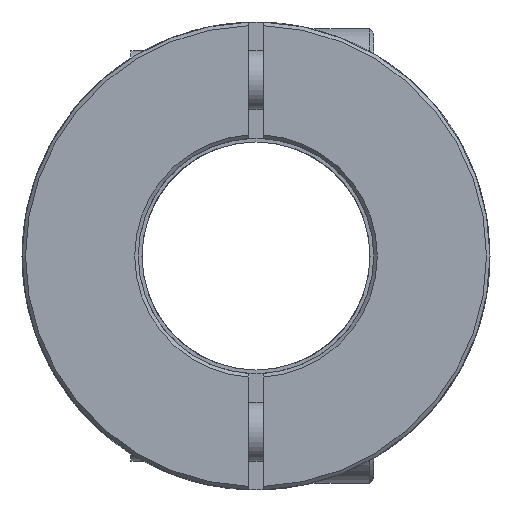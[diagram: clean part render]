
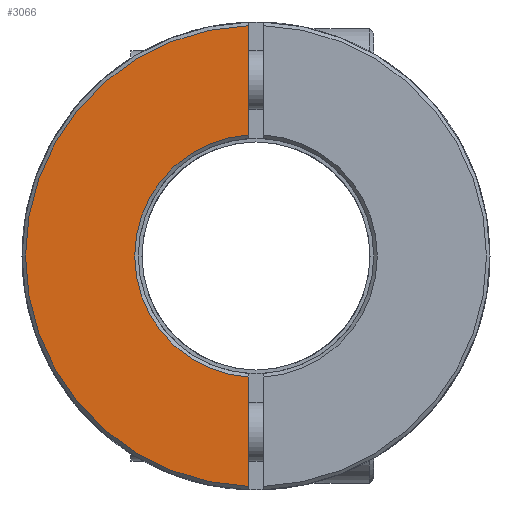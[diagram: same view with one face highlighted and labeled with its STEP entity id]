
A CAD part, front view. The second image highlights one B-rep face of the part: STEP entity #3066.
In plain terms, the highlighted planar face has unit normal (0, -1, 0).
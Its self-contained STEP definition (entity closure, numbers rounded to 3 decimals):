
#1=DIRECTION('',(0.,0.,-1.));
#2=VECTOR('',#1,7.427);
#3=CARTESIAN_POINT('',(-0.5,-19.,15.652));
#4=LINE('',#3,#2);
#5=DIRECTION('',(0.,0.,-1.));
#6=VECTOR('',#5,7.427);
#7=CARTESIAN_POINT('',(-0.5,-19.,-8.225));
#8=LINE('',#7,#6);
#2144=CARTESIAN_POINT('',(0.,-19.,0.));
#2145=DIRECTION('',(0.,1.,0.));
#2146=DIRECTION('',(-0.061,0.,-0.998));
#2147=AXIS2_PLACEMENT_3D('',#2144,#2145,#2146);
#2180=CARTESIAN_POINT('',(0.,-19.,0.));
#2181=DIRECTION('',(0.,-1.,0.));
#2182=DIRECTION('',(-0.032,0.,0.999));
#2183=AXIS2_PLACEMENT_3D('',#2180,#2181,#2182);
#2797=CARTESIAN_POINT('',(-0.5,-19.,15.652));
#2798=CARTESIAN_POINT('',(-0.5,-19.,8.225));
#2799=VERTEX_POINT('',#2797);
#2800=VERTEX_POINT('',#2798);
#2801=CARTESIAN_POINT('',(-0.5,-19.,-8.225));
#2802=CARTESIAN_POINT('',(-0.5,-19.,-15.652));
#2803=VERTEX_POINT('',#2801);
#2804=VERTEX_POINT('',#2802);
#3051=CARTESIAN_POINT('',(0.,-19.,0.));
#3052=DIRECTION('',(0.,1.,0.));
#3053=DIRECTION('',(1.,0.,0.));
#3054=AXIS2_PLACEMENT_3D('',#3051,#3052,#3053);
#3055=PLANE('',#3054);
#3057=ORIENTED_EDGE('',*,*,#3056,.T.);
#3059=ORIENTED_EDGE('',*,*,#3058,.F.);
#3061=ORIENTED_EDGE('',*,*,#3060,.T.);
#3063=ORIENTED_EDGE('',*,*,#3062,.F.);
#3064=EDGE_LOOP('',(#3057,#3059,#3061,#3063));
#3065=FACE_OUTER_BOUND('',#3064,.F.);
#3066=ADVANCED_FACE('',(#3065),#3055,.F.);
#2148=CIRCLE('',#2147,8.24);
#2184=CIRCLE('',#2183,15.66);
#3056=EDGE_CURVE('',#2799,#2800,#4,.T.);
#3058=EDGE_CURVE('',#2803,#2800,#2148,.T.);
#3060=EDGE_CURVE('',#2803,#2804,#8,.T.);
#3062=EDGE_CURVE('',#2799,#2804,#2184,.T.);
